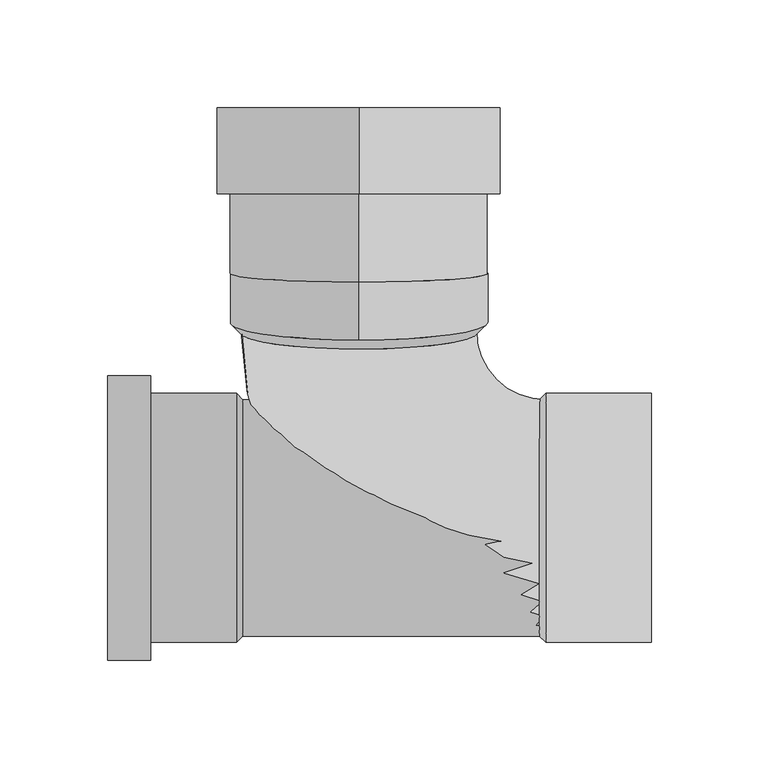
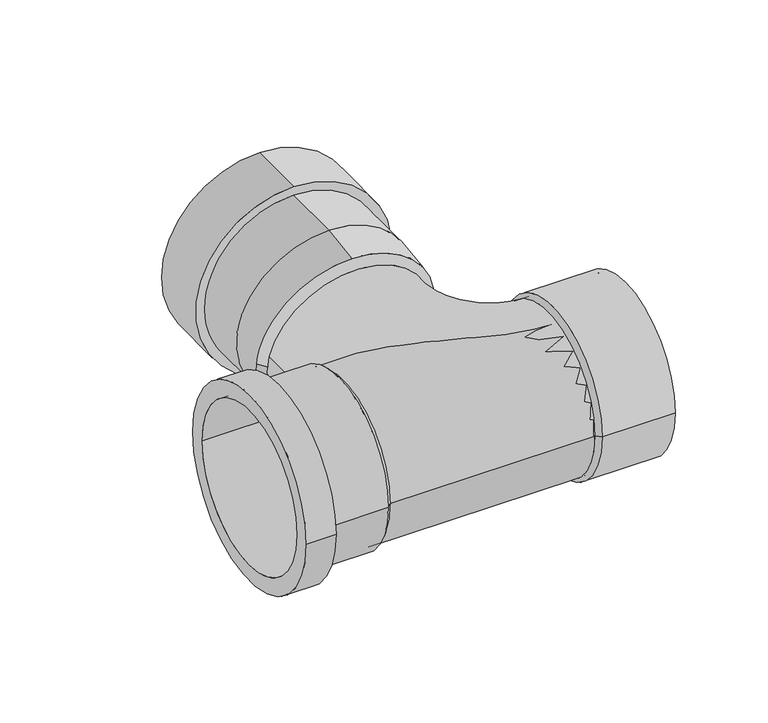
"""IFC4 building model written with IfcOpenShell, lengths in millimetres: pipe fitting geometry, Wavin_PipeAccessory_S&WSPvcBranchWc : 8º."""

from ifc_helpers import new_model, si_unit, point, frame, origin, origin_2d, place, context, project, spatial, polyline, circle_curve, ellipse_curve, trimmed, segment, composite_curve, outline, extrude, source, transform, mapped, element, save
from ifc_brep_helpers import plane_surface, cylinder_surface, revolved_surface, advanced_brep


def pipe_fitting_c38557df(model_context):
    return source(origin(), model_context, "Body", "SolidModel", [
        advanced_brep(
        [(-54.1, -55.0, 0.0), (-54.1, 55.0, 0.0), (-117.0, 55.0, 0.0), (-117.0, -55.0, 0.0), (-97.0, -57.9, 0.0), (-97.0, 57.9, 0.0), (-57.0, 57.9, 0.0), (-57.0, -57.9, 0.0), (-117.0, -66.25, 0.0), (-117.0, 66.25, 0.0), (-97.0, 66.25, 0.0), (-97.0, -66.25, 0.0)],
        [
            (0, 1, circle_curve(frame((-54.1, 0.0, 0.0), z_axis=(1.0, 0.0, 0.0), x_axis=(0.0, 1.0000000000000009, 0.0)), 55.0)),
            (1, 2),
            (2, 3, circle_curve(frame((-117.0, 0.0, 0.0), z_axis=(-1.0, 0.0, 0.0), x_axis=(0.0, 1.0000000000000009, 0.0)), 55.0)),
            (3, 0),
            (4, 5, circle_curve(frame((-97.0, 0.0, 0.0), z_axis=(1.0, 0.0, 0.0), x_axis=(0.0, 1.0000000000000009, 0.0)), 57.9)),
            (5, 6),
            (6, 7, circle_curve(frame((-57.0, 0.0, 0.0), z_axis=(-1.0, 0.0, 0.0), x_axis=(0.0, 1.0000000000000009, 0.0)), 57.9)),
            (7, 4),
            (1, 0, circle_curve(frame((-54.1, 0.0, 0.0), z_axis=(1.0, 0.0, 0.0), x_axis=(0.0, -1.0000000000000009, 0.0)), 55.0)),
            (3, 2, circle_curve(frame((-117.0, 0.0, 0.0), z_axis=(-1.0, 0.0, 0.0), x_axis=(0.0, -1.0000000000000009, 0.0)), 55.0)),
            (5, 4, circle_curve(frame((-97.0, 0.0, 0.0), z_axis=(1.0, 0.0, 0.0), x_axis=(0.0, -1.0000000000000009, 0.0)), 57.9)),
            (7, 6, circle_curve(frame((-57.0, 0.0, 0.0), z_axis=(-1.0, 0.0, 0.0), x_axis=(0.0, -1.0000000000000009, 0.0)), 57.9)),
            (8, 9, circle_curve(frame((-117.0, 0.0, 0.0), z_axis=(1.0, 0.0, 0.0), x_axis=(0.0, 1.0000000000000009, 0.0)), 66.25)),
            (9, 10),
            (10, 11, circle_curve(frame((-97.0, 0.0, 0.0), z_axis=(-1.0, 0.0, 0.0), x_axis=(0.0, 1.0000000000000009, 0.0)), 66.25)),
            (11, 8),
            (10, 11, circle_curve(frame((-97.0, 0.0, 0.0), z_axis=(1.0, 0.0, 0.0), x_axis=(0.0, -1.0000000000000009, 0.0)), 66.25)),
            (9, 8, circle_curve(frame((-117.0, 0.0, 0.0), z_axis=(1.0, 0.0, 0.0), x_axis=(0.0, -1.0000000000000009, 0.0)), 66.25)),
            (6, 1),
            (0, 7),
        ],
        [
            revolved_surface(polyline([(-117.00000000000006, 55.00000000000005, 0.0), (-54.1, 55.00000000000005, 0.0)]), (-57.0, 0.0, 0.0), (-1.0000000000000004, 0.0, 0.0)),
            cylinder_surface(frame((-57.0, 0.0, 0.0), z_axis=(-1.0000000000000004, 0.0, 0.0), x_axis=(0.0, 1.0000000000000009, 0.0)), 57.9),
            revolved_surface(polyline([(-117.00000000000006, -55.00000000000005, 0.0), (-54.1, -55.00000000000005, 0.0)]), (-57.0, 0.0, 0.0), (-1.0000000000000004, 0.0, 0.0)),
            cylinder_surface(frame((-57.0, 0.0, 0.0), z_axis=(-1.0000000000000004, 0.0, 0.0), x_axis=(0.0, -1.0000000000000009, 0.0)), 57.9),
            cylinder_surface(frame((-57.0, 0.0, 0.0), z_axis=(-1.0000000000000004, 0.0, 0.0), x_axis=(0.0, 1.0000000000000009, 0.0)), 66.25),
            plane_surface(frame((-97.0, 0.0, 0.0), z_axis=(1.0, 0.0, 0.0), x_axis=(0.0, -1.0, 0.0))),
            cylinder_surface(frame((-57.0, 0.0, 0.0), z_axis=(-1.0000000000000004, 0.0, 0.0), x_axis=(0.0, -1.0000000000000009, 0.0)), 66.25),
            plane_surface(frame((-117.0, 0.0, 0.0), z_axis=(-1.0, 0.0, 0.0), x_axis=(0.0, -1.0, 0.0))),
            revolved_surface(polyline([(-54.1, 55.0, 0.0), (-57.0, 57.9, 0.0)]), (-57.0, 0.0, 0.0), (-1.0000000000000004, 0.0, 0.0)),
            revolved_surface(polyline([(-54.1, -55.0, 0.0), (-57.0, -57.9, 0.0)]), (-57.0, 0.0, 0.0), (-1.0000000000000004, 0.0, 0.0)),
        ],
        [
            (0, [[1, 2, 3, 4]]),
            (1, [[5, 6, 7, 8]]),
            (2, [[9, -4, 10, -2]]),
            (3, [[11, -8, 12, -6]]),
            (4, [[13, 14, 15, 16]]),
            (5, [[17, -15], [-11, -5]]),
            (6, [[18, -16, -17, -14]]),
            (7, [[-18, -13], [-10, -3]]),
            (8, [[-7, 19, -1, 20]]),
            (9, [[-12, -20, -9, -19]]),
        ],
    ),
        advanced_brep(
        [(87.0, 57.9, 0.0), (87.0, -57.9, 0.0), (84.1, -55.0, 0.0), (84.1, 55.0, 0.0), (136.0, 57.9, 0.0), (136.0, -57.9, 0.0), (136.0, -55.0, 0.0), (136.0, 55.0, 0.0)],
        [
            (0, 1, circle_curve(frame((87.0, 0.0, 0.0), z_axis=(-1.0, 0.0, 0.0), x_axis=(0.0, -1.0, 0.0)), 57.9)),
            (1, 2),
            (2, 3, circle_curve(frame((84.1, 0.0, 0.0), z_axis=(1.0, 0.0, 0.0), x_axis=(0.0, -1.0, 0.0)), 55.0)),
            (3, 0),
            (4, 5, circle_curve(frame((136.0, 0.0, 0.0), z_axis=(-1.0, 0.0, 0.0), x_axis=(0.0, -1.0, 0.0)), 57.9)),
            (5, 1),
            (0, 4),
            (2, 6),
            (6, 7, circle_curve(frame((136.0, 0.0, 0.0), z_axis=(1.0, 0.0, 0.0), x_axis=(0.0, -1.0, 0.0)), 55.0)),
            (7, 3),
            (1, 0, circle_curve(frame((87.0, 0.0, 0.0), z_axis=(-1.0, 0.0, 0.0), x_axis=(0.0, 1.0, 0.0)), 57.9)),
            (3, 2, circle_curve(frame((84.1, 0.0, 0.0), z_axis=(1.0, 0.0, 0.0), x_axis=(0.0, 1.0, 0.0)), 55.0)),
            (5, 4, circle_curve(frame((136.0, 0.0, 0.0), z_axis=(-1.0, 0.0, 0.0), x_axis=(0.0, 1.0, 0.0)), 57.9)),
            (6, 7, circle_curve(frame((136.0, 0.0, 0.0), z_axis=(-1.0, 0.0, 0.0), x_axis=(0.0, 1.0, 0.0)), 55.0)),
        ],
        [
            revolved_surface(polyline([(84.1, -55.0, 0.0), (87.0, -57.9, 0.0)]), (87.0, 0.0, 0.0), (1.0, 0.0, 0.0)),
            cylinder_surface(frame((87.0, 0.0, 0.0), z_axis=(1.0, 0.0, 0.0), x_axis=(0.0, -1.0, 0.0)), 57.9),
            revolved_surface(polyline([(136.0, -55.0, 0.0), (84.1, -55.0, 0.0)]), (87.0, 0.0, 0.0), (1.0, 0.0, 0.0)),
            revolved_surface(polyline([(84.1, 55.0, 0.0), (87.0, 57.9, 0.0)]), (87.0, 0.0, 0.0), (1.0, 0.0, 0.0)),
            cylinder_surface(frame((87.0, 0.0, 0.0), z_axis=(1.0, 0.0, 0.0), x_axis=(0.0, 1.0, 0.0)), 57.9),
            plane_surface(frame((136.0, 0.0, 0.0), z_axis=(1.0, 0.0, 0.0), x_axis=(0.0, 1.0, 0.0))),
            revolved_surface(polyline([(136.0, 55.0, 0.0), (84.1, 55.0, 0.0)]), (87.0, 0.0, 0.0), (1.0, 0.0, 0.0)),
        ],
        [
            (0, [[1, 2, 3, 4]]),
            (1, [[5, 6, -1, 7]]),
            (2, [[-3, 8, 9, 10]]),
            (3, [[11, -4, 12, -2]]),
            (4, [[13, -7, -11, -6]]),
            (5, [[-13, -5], [14, -9]]),
            (6, [[-12, -10, -14, -8]]),
        ],
    ),
        advanced_brep(
        [(87.0, -55.0, 0.0), (87.0, 55.0, 0.0), (-54.4647438, 85.0880186, 19.6880871), (-55.0, 86.153322, 12.1080598), (54.4647438, 87.2186253, 4.5280325), (55.0, 86.153322, 12.1080598), (0.0, 190.8516321, -50.0), (0.0, 190.8516321, 82.0), (0.0, 190.8516321, 72.5), (0.0, 190.8516321, -40.5), (0.0, 109.6503068, 76.0), (0.0, 118.0415243, -44.0), (0.0, 150.8516321, -44.0), (0.0, 150.8516321, 76.0), (0.0, 82.7542763, 72.2200094), (60.0, 91.1046623, 12.8039253), (0.0, 99.4550484, -46.6121588), (-60.0, 91.1046623, 12.8039253), (0.0, 150.8516321, -50.0), (0.0, 150.8516321, 82.0), (0.0, 120.8516321, 72.5), (0.0, 120.8516321, -40.5)],
        [
            (0, 1, circle_curve(frame((87.0, 0.0, 0.0), z_axis=(1.0, 0.0, 0.0), x_axis=(0.0, 1.0, 0.0)), 55.0)),
            (1, 0, circle_curve(frame((87.0, 0.0, 0.0), z_axis=(1.0, 0.0, 0.0), x_axis=(0.0, 1.0, 0.0)), 55.0)),
            (0, 2, circle_curve(frame((87.0, 85.0880186, 19.6880871), z_axis=(0.0, 0.13917310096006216, -0.9902680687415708), x_axis=(0.0, -0.9902680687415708, -0.13917310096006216)), 141.4647438)),
            (2, 3, circle_curve(frame((0.0, 86.153322, 12.1080598), z_axis=(0.0, -0.9902680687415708, -0.13917310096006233), x_axis=(0.9902680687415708, 0.019369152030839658, -0.1378186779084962)), 55.0)),
            (3, 4, circle_curve(frame((0.0, 86.153322, 12.1080598), z_axis=(0.0, -0.9902680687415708, -0.13917310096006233), x_axis=(0.9902680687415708, 0.01936915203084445, -0.13781867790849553)), 55.0)),
            (4, 1, circle_curve(frame((87.0, 87.2186253, 4.5280325), z_axis=(0.0, -0.13917310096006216, 0.9902680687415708), x_axis=(0.0, -0.9902680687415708, -0.13917310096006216)), 32.5352562)),
            (4, 5, circle_curve(frame((0.0, 86.153322, 12.1080598), z_axis=(0.0, -0.9902680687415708, -0.13917310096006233), x_axis=(0.9902680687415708, 0.019369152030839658, -0.1378186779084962)), 55.0)),
            (5, 2, circle_curve(frame((0.0, 86.153322, 12.1080598), z_axis=(0.0, -0.9902680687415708, -0.13917310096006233), x_axis=(0.9902680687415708, 0.019369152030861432, -0.13781867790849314)), 55.0)),
            (6, 7, circle_curve(frame((0.0, 190.8516321, 16.0), z_axis=(0.0, 1.0, 0.0), x_axis=(0.0, 0.0, 1.0)), 66.0)),
            (7, 6, circle_curve(frame((0.0, 190.8516321, 16.0), z_axis=(0.0, 1.0, 0.0), x_axis=(0.0, 0.0, 1.0)), 66.0)),
            (8, 9, circle_curve(frame((0.0, 190.8516321, 16.0), z_axis=(0.0, -1.0, 0.0), x_axis=(0.0, 0.0, -1.0)), 56.5)),
            (9, 8, circle_curve(frame((0.0, 190.8516321, 16.0), z_axis=(0.0, -1.0, 0.0), x_axis=(0.0, 0.0, -1.0)), 56.5)),
            (10, 11, ellipse_curve(frame((0.0, 113.8459156, 16.0), z_axis=(0.0, 0.9975640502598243, 0.06975647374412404), x_axis=(0.0, 0.06975647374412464, -0.9975640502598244)), 60.1465139, 60.0)),
            (11, 12),
            (12, 13, circle_curve(frame((0.0, 150.8516321, 16.0), z_axis=(0.0, -1.0, 0.0), x_axis=(0.0, 0.0, -1.0)), 60.0)),
            (13, 10),
            (11, 10, ellipse_curve(frame((0.0, 113.8459156, 16.0), z_axis=(0.0, 0.9975640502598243, 0.06975647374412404), x_axis=(0.0, 0.06975647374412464, -0.9975640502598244)), 60.1465139, 60.0)),
            (13, 12, circle_curve(frame((0.0, 150.8516321, 16.0), z_axis=(0.0, -1.0, 0.0), x_axis=(0.0, 0.0, -1.0)), 60.0)),
            (10, 14),
            (14, 15, circle_curve(frame((0.0, 91.1046623, 12.8039253), z_axis=(0.0, 0.9902680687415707, 0.13917310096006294), x_axis=(0.0, 0.13917310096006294, -0.9902680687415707)), 60.0)),
            (15, 16, circle_curve(frame((0.0, 91.1046623, 12.8039253), z_axis=(0.0, 0.9902680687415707, 0.13917310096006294), x_axis=(0.0, 0.13917310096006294, -0.9902680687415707)), 60.0)),
            (16, 11),
            (16, 17, circle_curve(frame((0.0, 91.1046623, 12.8039253), z_axis=(0.0, 0.9902680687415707, 0.13917310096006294), x_axis=(0.0, 0.13917310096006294, -0.9902680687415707)), 60.0)),
            (17, 14, circle_curve(frame((0.0, 91.1046623, 12.8039253), z_axis=(0.0, 0.9902680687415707, 0.13917310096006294), x_axis=(0.0, 0.13917310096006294, -0.9902680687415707)), 60.0)),
            (18, 19, circle_curve(frame((0.0, 150.8516321, 16.0), z_axis=(0.0, -1.0, 0.0), x_axis=(0.0, 0.0, 1.0)), 66.0)),
            (19, 18, circle_curve(frame((0.0, 150.8516321, 16.0), z_axis=(0.0, -1.0, 0.0), x_axis=(0.0, 0.0, 1.0)), 66.0)),
            (19, 7),
            (6, 18),
            (20, 21, circle_curve(frame((0.0, 120.8516321, 16.0), z_axis=(0.0, 1.0, 0.0), x_axis=(0.0, 0.0, -1.0)), 56.5)),
            (21, 20, circle_curve(frame((0.0, 120.8516321, 16.0), z_axis=(0.0, 1.0, 0.0), x_axis=(0.0, 0.0, -1.0)), 56.5)),
            (21, 9),
            (8, 20),
            (15, 5),
            (3, 17),
        ],
        [
            plane_surface(frame((87.0, 93.111977, -37.4053437), z_axis=(1.0, 0.0, 0.0), x_axis=(0.0, -0.9902680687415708, -0.13917310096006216))),
            revolved_surface(trimmed(ellipse_curve(frame((87.0, 0.0, 0.0), z_axis=(1.0, 0.0, 0.0), x_axis=(0.0, 1.0, 0.0)), 55.0, 55.0), [point((87.0, -55.0, 0.0))], [point((87.0, 55.0, 0.0))], True, "CARTESIAN"), (87.0, 93.111977, -37.4053437), (0.0, 0.13917310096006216, -0.9902680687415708)),
            revolved_surface(trimmed(ellipse_curve(frame((87.0, 0.0, 0.0), z_axis=(1.0, 0.0, 0.0), x_axis=(0.0, 1.0, 0.0)), 55.0, 55.0), [point((87.0, 55.0, 0.0))], [point((87.0, -55.0, 0.0))], True, "CARTESIAN"), (87.0, 93.111977, -37.4053437), (0.0, 0.13917310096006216, -0.9902680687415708)),
            plane_surface(frame((0.0, 190.8516321, 16.0), z_axis=(0.0, 1.0, 0.0), x_axis=(1.0, 0.0, 0.0))),
            cylinder_surface(frame((0.0, 190.8516321, 16.0), z_axis=(0.0, 1.0, 0.0), x_axis=(0.0, 0.0, -1.0)), 60.0),
            cylinder_surface(frame((0.0, 113.8459156, 16.0), z_axis=(0.0, 0.9902680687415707, 0.13917310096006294), x_axis=(0.0, 0.13917310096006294, -0.9902680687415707)), 60.0),
            plane_surface(frame((0.0, 150.8516321, 82.0), z_axis=(0.0, -1.0, 0.0), x_axis=(-1.0, 0.0, 0.0))),
            cylinder_surface(frame((0.0, 150.8516321, 16.0), z_axis=(0.0, 1.0, 0.0), x_axis=(0.0, 0.0, 1.0)), 66.0),
            plane_surface(frame((0.0, 120.8516321, -40.5), z_axis=(0.0, 1.0, 0.0), x_axis=(1.0, 0.0, 0.0))),
            revolved_surface(polyline([(0.0, 120.8516321, -40.5), (0.0, 190.8516321, -40.5)]), (0.0, 190.8516321, 16.0), (0.0, -1.0, 0.0)),
            revolved_surface(polyline([(-60.0, 91.1046623, 12.8039253), (-55.0, 86.153322, 12.1080598)]), (0.0, 86.153322, 12.1080598), (0.0, -0.9902680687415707, -0.13917310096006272)),
            revolved_surface(polyline([(60.0, 91.1046623, 12.8039253), (55.0, 86.153322, 12.1080598)]), (0.0, 86.153322, 12.1080598), (0.0, -0.9902680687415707, -0.13917310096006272)),
        ],
        [
            (0, [[1, 2]]),
            (1, [[-1, 3, 4, 5, 6]]),
            (2, [[-2, -6, 7, 8, -3]]),
            (3, [[9, 10], [11, 12]]),
            (4, [[13, 14, 15, 16]]),
            (4, [[17, -16, 18, -14]]),
            (5, [[-13, 19, 20, 21, 22]]),
            (5, [[-17, -22, 23, 24, -19]]),
            (6, [[25, 26], [-15, -18]]),
            (7, [[-26, 27, -9, 28]]),
            (7, [[-25, -28, -10, -27]]),
            (8, [[29, 30]]),
            (9, [[-30, 31, -11, 32]]),
            (9, [[-29, -32, -12, -31]]),
            (10, [[33, -7, -5, 34, -23, -21]]),
            (11, [[-33, -20, -24, -34, -4, -8]]),
        ],
    ),
        extrude(outline(composite_curve([segment(trimmed(circle_curve(origin_2d(), 55.0), [point((-55.0, 0.0))], [point((55.0, 0.0))], False, "CARTESIAN"), True, "CONTINUOUS"), segment(trimmed(circle_curve(origin_2d(), 55.0), [point((55.0, 0.0))], [point((-55.0, 0.0))], False, "CARTESIAN"), True, "CONTINUOUS")], self_intersect=False)), frame((-57.0, 0.0, 0.0), z_axis=(1.0, 0.0, 0.0), x_axis=(0.0, 1.0, 0.0)), (0.0, 0.0, 1.0), 144.0),
    ])


if __name__ == "__main__":
    model = new_model("IFC4")
    model_context = context("Model", 3, world=origin())
    ifc_project = project(units=[si_unit("LENGTHUNIT", "METRE", prefix="MILLI")], contexts=[model_context])
    site = spatial("IfcSite", under=ifc_project)
    building = spatial("IfcBuilding", under=site)
    placement = place(None, origin())
    pipe_fitting_shape = pipe_fitting_c38557df(model_context)
    element("IfcPipeFitting", 1, ObjectType="Wavin_PipeAccessory_S&WSPvcBranchWc : 8º", at=placement, inside=building, context=model_context, shape_type="MappedRepresentation", body=[
        mapped(pipe_fitting_shape, transform((0.0, 0.0, 0.0), x_axis=(1.0, 0.0, 0.0), y_axis=(0.0, 1.0, 0.0), z_axis=(0.0, 0.0, 1.0))),
    ])
    save(model, "model.ifc")
